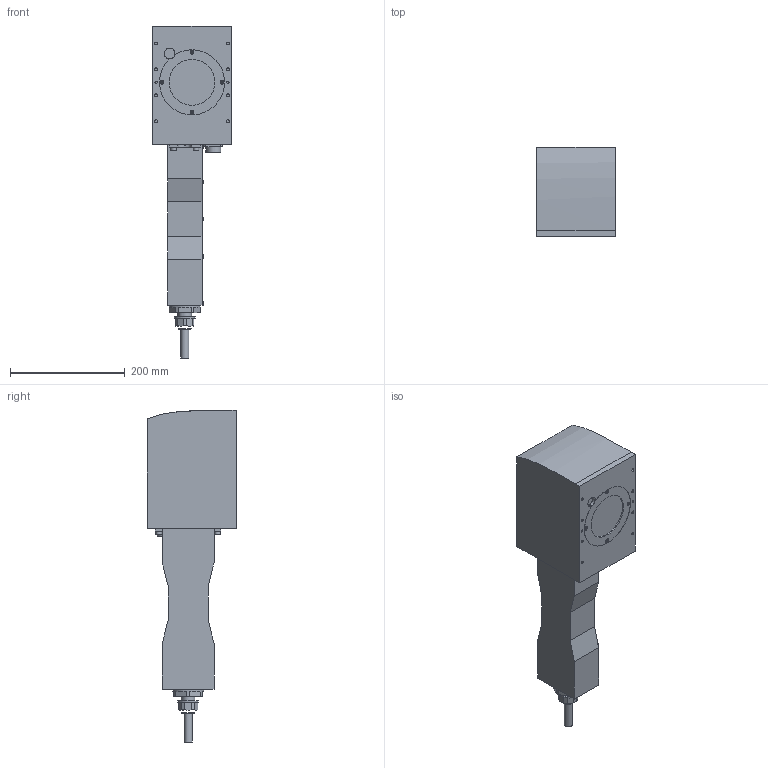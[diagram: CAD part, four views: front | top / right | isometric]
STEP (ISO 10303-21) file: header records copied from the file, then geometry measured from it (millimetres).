
FILE_DESCRIPTION(/* description */ (''),/* implementation_level */ '2;1');
FILE_NAME(/* name */ '',/* time_stamp */ '2025-08-20T11:25:21+09:00',/* author */ (''),/* organization */ (''),/* preprocessor_version */ 'ST-DEVELOPER v20.1',/* originating_system */ 'Autodesk Translation Framework v14.10.0.0',/* authorisation */ '');
FILE_SCHEMA (('AUTOMOTIVE_DESIGN { 1 0 10303 214 3 1 1 }'));
Length unit declared in the file: millimetre
Products named in the file (1): PL2000F-M20　ヘッド
Bounding box: 136 x 155 x 577.7 mm (x, y, z)
Volume: 5719810.1 mm3; surface area: 296538.5 mm2
Topology: 3 solids, 3 shells, 310 faces, 699 edges, 466 vertices
Faces by surface type: plane 230, cylinder 71, cone 7, torus 1, bspline 1
Full cylindrical faces by diameter (mm): 2.5 x8, 4 x6, 5 x16, 5.5 x10, 6 x4, 10 x4, 14.2 x1, 18.6 x1, 23.7 x1, 25.7 x2, 36 x1, 54.5 x1, 80 x1
Entity records: 8880 total; most frequent: CARTESIAN_POINT 1620, DIRECTION 1475, ORIENTED_EDGE 1398, EDGE_CURVE 699, LINE 511, VECTOR 511, AXIS2_PLACEMENT_3D 482, VERTEX_POINT 466
